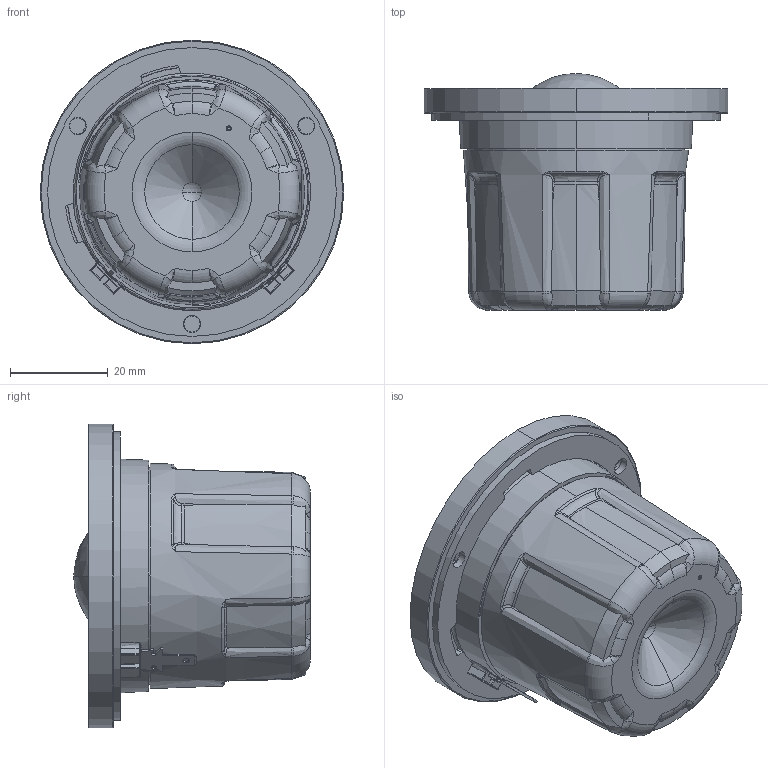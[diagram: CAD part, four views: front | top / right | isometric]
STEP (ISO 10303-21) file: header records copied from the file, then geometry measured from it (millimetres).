
FILE_DESCRIPTION (( 'STEP AP214' ), '1' );
FILE_NAME ('D3004-602200.STEP', '2023-02-10T10:36:28', ( '' ), ( '' ), 'SwSTEP 2.0', 'SolidWorks 2022', '' );
FILE_SCHEMA (( 'AUTOMOTIVE_DESIGN' ));
Length unit declared in the file: millimetre
Products named in the file (1): D3004-602200
Bounding box: 62 x 48.37 x 62 mm (x, y, z)
Volume: 75573.2 mm3; surface area: 16628.8 mm2
Topology: 3 solids, 5 shells, 618 faces, 1696 edges, 1026 vertices
Faces by surface type: plane 193, cylinder 155, bspline 131, torus 71, cone 52, sphere 16
Entity records: 29611 total; most frequent: CARTESIAN_POINT 8751, ORIENTED_EDGE 3288, DIRECTION 2781, EDGE_CURVE 1644, AXIS2_PLACEMENT_3D 1096, VERTEX_POINT 1026, EDGE_LOOP 636, FACE_OUTER_BOUND 618
